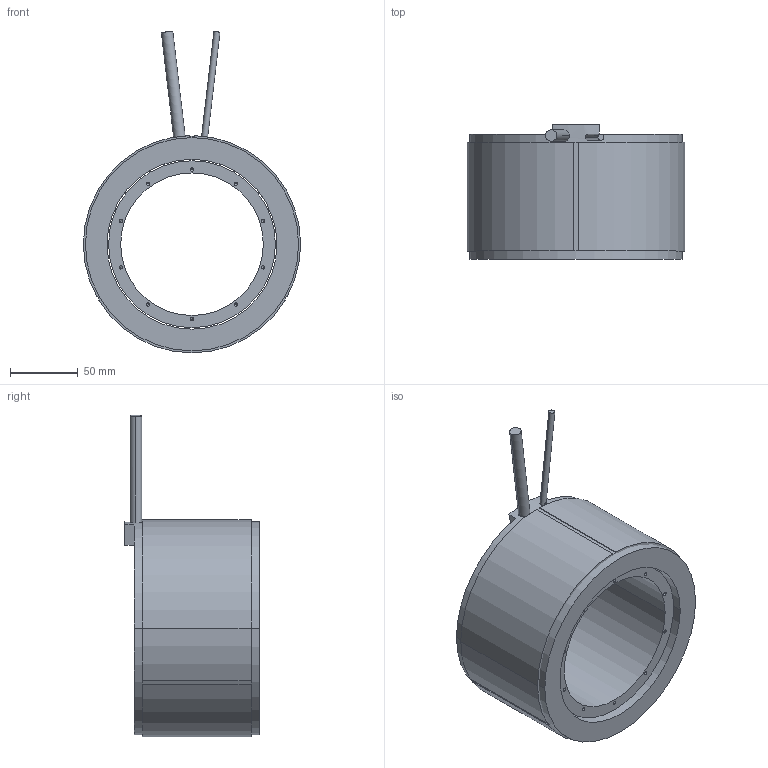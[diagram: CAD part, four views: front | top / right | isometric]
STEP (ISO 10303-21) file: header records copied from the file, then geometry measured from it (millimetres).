
FILE_DESCRIPTION (( 'STEP AP203' ), '1' );
FILE_NAME ('TMX160-92 3D.STEP', '2022-11-23T02:39:11', ( '' ), ( '' ), 'SwSTEP 2.0', 'SolidWorks 2021', '' );
FILE_SCHEMA (( 'CONFIG_CONTROL_DESIGN' ));
Length unit declared in the file: millimetre
Products named in the file (3): TMX160-92 KIT 3D; TM160-92 KIT 3D; TMX160-92 3D
Assembly tree (2 placements, depth 2):
  TMX160-92 3D
    TM160-92 KIT 3D
    TMX160-92 KIT 3D
Bounding box: 160 x 99 x 236.92 mm (x, y, z)
Volume: 1106085.8 mm3; surface area: 250811.6 mm2
Topology: 3 solids, 3 shells, 243 faces, 662 edges, 408 vertices
Faces by surface type: cylinder 118, plane 85, cone 40
Entity records: 7835 total; most frequent: CARTESIAN_POINT 1396, DIRECTION 1344, ORIENTED_EDGE 1244, EDGE_CURVE 622, AXIS2_PLACEMENT_3D 482, VERTEX_POINT 408, LINE 380, VECTOR 380
